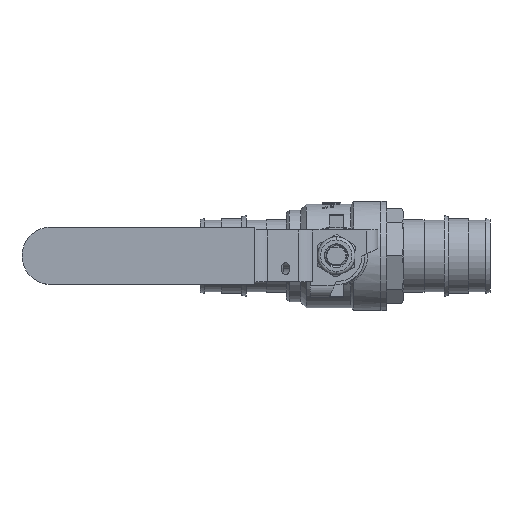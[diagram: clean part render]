
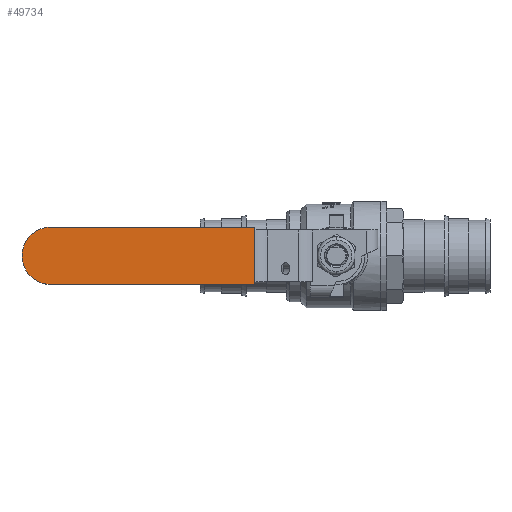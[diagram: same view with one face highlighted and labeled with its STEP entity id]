
A CAD part, top view. The second image highlights one B-rep face of the part: STEP entity #49734.
In plain terms, the highlighted planar face has unit normal (0, 0, 1).
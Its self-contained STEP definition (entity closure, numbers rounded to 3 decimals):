
#47171 = PLANE('',#47172);
#47172 = AXIS2_PLACEMENT_3D('',#47173,#47174,#47175);
#47173 = CARTESIAN_POINT('',(-28.314,10.,54.709));
#47174 = DIRECTION('',(-1.,0.,0.));
#47175 = DIRECTION('',(-0.,-1.,0.));
#49504 = VERTEX_POINT('',#49505);
#49505 = CARTESIAN_POINT('',(-28.314,-10.,54.709));
#49521 = PLANE('',#49522);
#49522 = AXIS2_PLACEMENT_3D('',#49523,#49524,#49525);
#49523 = CARTESIAN_POINT('',(0.,-10.,35.709));
#49524 = DIRECTION('',(0.,1.,0.));
#49525 = DIRECTION('',(-1.,0.,0.));
#49562 = VERTEX_POINT('',#49563);
#49563 = CARTESIAN_POINT('',(-28.314,10.,54.709));
#49577 = PLANE('',#49578);
#49578 = AXIS2_PLACEMENT_3D('',#49579,#49580,#49581);
#49579 = CARTESIAN_POINT('',(0.,10.,35.709));
#49580 = DIRECTION('',(0.,1.,0.));
#49581 = DIRECTION('',(-1.,0.,0.));
#49589 = EDGE_CURVE('',#49562,#49504,#49590,.T.);
#49590 = SURFACE_CURVE('',#49591,(#49595,#49602),.PCURVE_S1.);
#49591 = LINE('',#49592,#49593);
#49592 = CARTESIAN_POINT('',(-28.314,10.,54.709));
#49593 = VECTOR('',#49594,1.);
#49594 = DIRECTION('',(0.,-1.,0.));
#49595 = PCURVE('',#47171,#49596);
#49596 = DEFINITIONAL_REPRESENTATION('',(#49597),#49601);
#49597 = LINE('',#49598,#49599);
#49598 = CARTESIAN_POINT('',(-0.,0.));
#49599 = VECTOR('',#49600,1.);
#49600 = DIRECTION('',(1.,0.));
#49601 = ( GEOMETRIC_REPRESENTATION_CONTEXT(2) 
PARAMETRIC_REPRESENTATION_CONTEXT() REPRESENTATION_CONTEXT('2D SPACE',''
  ) );
#49602 = PCURVE('',#49603,#49608);
#49603 = PLANE('',#49604);
#49604 = AXIS2_PLACEMENT_3D('',#49605,#49606,#49607);
#49605 = CARTESIAN_POINT('',(-28.314,10.,54.709));
#49606 = DIRECTION('',(0.,0.,-1.));
#49607 = DIRECTION('',(0.,-1.,0.));
#49608 = DEFINITIONAL_REPRESENTATION('',(#49609),#49613);
#49609 = LINE('',#49610,#49611);
#49610 = CARTESIAN_POINT('',(0.,0.));
#49611 = VECTOR('',#49612,1.);
#49612 = DIRECTION('',(1.,0.));
#49613 = ( GEOMETRIC_REPRESENTATION_CONTEXT(2) 
PARAMETRIC_REPRESENTATION_CONTEXT() REPRESENTATION_CONTEXT('2D SPACE',''
  ) );
#49668 = CYLINDRICAL_SURFACE('',#49669,10.);
#49669 = AXIS2_PLACEMENT_3D('',#49670,#49671,#49672);
#49670 = CARTESIAN_POINT('',(-99.5,0.,54.709));
#49671 = DIRECTION('',(0.,0.,1.));
#49672 = DIRECTION('',(0.,1.,0.));
#49701 = CYLINDRICAL_SURFACE('',#49702,10.);
#49702 = AXIS2_PLACEMENT_3D('',#49703,#49704,#49705);
#49703 = CARTESIAN_POINT('',(-99.5,0.,35.709));
#49704 = DIRECTION('',(0.,0.,-1.));
#49705 = DIRECTION('',(0.,-1.,0.));
#49734 = ADVANCED_FACE('',(#49735),#49603,.F.);
#49735 = FACE_BOUND('',#49736,.T.);
#49736 = EDGE_LOOP('',(#49737,#49767,#49795,#49816,#49817));
#49737 = ORIENTED_EDGE('',*,*,#49738,.T.);
#49738 = EDGE_CURVE('',#49739,#49741,#49743,.T.);
#49739 = VERTEX_POINT('',#49740);
#49740 = CARTESIAN_POINT('',(-99.5,10.,54.709));
#49741 = VERTEX_POINT('',#49742);
#49742 = CARTESIAN_POINT('',(-109.5,0.,54.709));
#49743 = SURFACE_CURVE('',#49744,(#49749,#49760),.PCURVE_S1.);
#49744 = CIRCLE('',#49745,10.);
#49745 = AXIS2_PLACEMENT_3D('',#49746,#49747,#49748);
#49746 = CARTESIAN_POINT('',(-99.5,0.,54.709));
#49747 = DIRECTION('',(0.,0.,1.));
#49748 = DIRECTION('',(0.,-1.,0.));
#49749 = PCURVE('',#49603,#49750);
#49750 = DEFINITIONAL_REPRESENTATION('',(#49751),#49759);
#49751 = ( BOUNDED_CURVE() B_SPLINE_CURVE(2,(#49752,#49753,#49754,#49755
    ,#49756,#49757,#49758),.UNSPECIFIED.,.T.,.F.) 
B_SPLINE_CURVE_WITH_KNOTS((1,2,2,2,2,1),(-2.094,0.,
    2.094,4.189,6.283,8.378),
.UNSPECIFIED.) CURVE() GEOMETRIC_REPRESENTATION_ITEM() 
RATIONAL_B_SPLINE_CURVE((1.,0.5,1.,0.5,1.,0.5,1.)) REPRESENTATION_ITEM(
  '') );
#49752 = CARTESIAN_POINT('',(20.,71.186));
#49753 = CARTESIAN_POINT('',(20.,53.866));
#49754 = CARTESIAN_POINT('',(5.,62.526));
#49755 = CARTESIAN_POINT('',(-10.,71.186));
#49756 = CARTESIAN_POINT('',(5.,79.847));
#49757 = CARTESIAN_POINT('',(20.,88.507));
#49758 = CARTESIAN_POINT('',(20.,71.186));
#49759 = ( GEOMETRIC_REPRESENTATION_CONTEXT(2) 
PARAMETRIC_REPRESENTATION_CONTEXT() REPRESENTATION_CONTEXT('2D SPACE',''
  ) );
#49760 = PCURVE('',#49701,#49761);
#49761 = DEFINITIONAL_REPRESENTATION('',(#49762),#49766);
#49762 = LINE('',#49763,#49764);
#49763 = CARTESIAN_POINT('',(6.283,-19.));
#49764 = VECTOR('',#49765,1.);
#49765 = DIRECTION('',(-1.,0.));
#49766 = ( GEOMETRIC_REPRESENTATION_CONTEXT(2) 
PARAMETRIC_REPRESENTATION_CONTEXT() REPRESENTATION_CONTEXT('2D SPACE',''
  ) );
#49767 = ORIENTED_EDGE('',*,*,#49768,.T.);
#49768 = EDGE_CURVE('',#49741,#49769,#49771,.T.);
#49769 = VERTEX_POINT('',#49770);
#49770 = CARTESIAN_POINT('',(-99.5,-10.,54.709));
#49771 = SURFACE_CURVE('',#49772,(#49777,#49788),.PCURVE_S1.);
#49772 = CIRCLE('',#49773,10.);
#49773 = AXIS2_PLACEMENT_3D('',#49774,#49775,#49776);
#49774 = CARTESIAN_POINT('',(-99.5,0.,54.709));
#49775 = DIRECTION('',(0.,0.,1.));
#49776 = DIRECTION('',(0.,-1.,0.));
#49777 = PCURVE('',#49603,#49778);
#49778 = DEFINITIONAL_REPRESENTATION('',(#49779),#49787);
#49779 = ( BOUNDED_CURVE() B_SPLINE_CURVE(2,(#49780,#49781,#49782,#49783
    ,#49784,#49785,#49786),.UNSPECIFIED.,.T.,.F.) 
B_SPLINE_CURVE_WITH_KNOTS((1,2,2,2,2,1),(-2.094,0.,
    2.094,4.189,6.283,8.378),
.UNSPECIFIED.) CURVE() GEOMETRIC_REPRESENTATION_ITEM() 
RATIONAL_B_SPLINE_CURVE((1.,0.5,1.,0.5,1.,0.5,1.)) REPRESENTATION_ITEM(
  '') );
#49780 = CARTESIAN_POINT('',(20.,71.186));
#49781 = CARTESIAN_POINT('',(20.,53.866));
#49782 = CARTESIAN_POINT('',(5.,62.526));
#49783 = CARTESIAN_POINT('',(-10.,71.186));
#49784 = CARTESIAN_POINT('',(5.,79.847));
#49785 = CARTESIAN_POINT('',(20.,88.507));
#49786 = CARTESIAN_POINT('',(20.,71.186));
#49787 = ( GEOMETRIC_REPRESENTATION_CONTEXT(2) 
PARAMETRIC_REPRESENTATION_CONTEXT() REPRESENTATION_CONTEXT('2D SPACE',''
  ) );
#49788 = PCURVE('',#49668,#49789);
#49789 = DEFINITIONAL_REPRESENTATION('',(#49790),#49794);
#49790 = LINE('',#49791,#49792);
#49791 = CARTESIAN_POINT('',(-3.142,0.));
#49792 = VECTOR('',#49793,1.);
#49793 = DIRECTION('',(1.,0.));
#49794 = ( GEOMETRIC_REPRESENTATION_CONTEXT(2) 
PARAMETRIC_REPRESENTATION_CONTEXT() REPRESENTATION_CONTEXT('2D SPACE',''
  ) );
#49795 = ORIENTED_EDGE('',*,*,#49796,.T.);
#49796 = EDGE_CURVE('',#49769,#49504,#49797,.T.);
#49797 = SURFACE_CURVE('',#49798,(#49802,#49809),.PCURVE_S1.);
#49798 = LINE('',#49799,#49800);
#49799 = CARTESIAN_POINT('',(-28.314,-10.,54.709));
#49800 = VECTOR('',#49801,1.);
#49801 = DIRECTION('',(1.,0.,0.));
#49802 = PCURVE('',#49603,#49803);
#49803 = DEFINITIONAL_REPRESENTATION('',(#49804),#49808);
#49804 = LINE('',#49805,#49806);
#49805 = CARTESIAN_POINT('',(20.,0.));
#49806 = VECTOR('',#49807,1.);
#49807 = DIRECTION('',(0.,-1.));
#49808 = ( GEOMETRIC_REPRESENTATION_CONTEXT(2) 
PARAMETRIC_REPRESENTATION_CONTEXT() REPRESENTATION_CONTEXT('2D SPACE',''
  ) );
#49809 = PCURVE('',#49521,#49810);
#49810 = DEFINITIONAL_REPRESENTATION('',(#49811),#49815);
#49811 = LINE('',#49812,#49813);
#49812 = CARTESIAN_POINT('',(28.314,19.));
#49813 = VECTOR('',#49814,1.);
#49814 = DIRECTION('',(-1.,0.));
#49815 = ( GEOMETRIC_REPRESENTATION_CONTEXT(2) 
PARAMETRIC_REPRESENTATION_CONTEXT() REPRESENTATION_CONTEXT('2D SPACE',''
  ) );
#49816 = ORIENTED_EDGE('',*,*,#49589,.F.);
#49817 = ORIENTED_EDGE('',*,*,#49818,.F.);
#49818 = EDGE_CURVE('',#49739,#49562,#49819,.T.);
#49819 = SURFACE_CURVE('',#49820,(#49824,#49831),.PCURVE_S1.);
#49820 = LINE('',#49821,#49822);
#49821 = CARTESIAN_POINT('',(-28.314,10.,54.709));
#49822 = VECTOR('',#49823,1.);
#49823 = DIRECTION('',(1.,0.,0.));
#49824 = PCURVE('',#49603,#49825);
#49825 = DEFINITIONAL_REPRESENTATION('',(#49826),#49830);
#49826 = LINE('',#49827,#49828);
#49827 = CARTESIAN_POINT('',(0.,0.));
#49828 = VECTOR('',#49829,1.);
#49829 = DIRECTION('',(0.,-1.));
#49830 = ( GEOMETRIC_REPRESENTATION_CONTEXT(2) 
PARAMETRIC_REPRESENTATION_CONTEXT() REPRESENTATION_CONTEXT('2D SPACE',''
  ) );
#49831 = PCURVE('',#49577,#49832);
#49832 = DEFINITIONAL_REPRESENTATION('',(#49833),#49837);
#49833 = LINE('',#49834,#49835);
#49834 = CARTESIAN_POINT('',(28.314,19.));
#49835 = VECTOR('',#49836,1.);
#49836 = DIRECTION('',(-1.,0.));
#49837 = ( GEOMETRIC_REPRESENTATION_CONTEXT(2) 
PARAMETRIC_REPRESENTATION_CONTEXT() REPRESENTATION_CONTEXT('2D SPACE',''
  ) );
